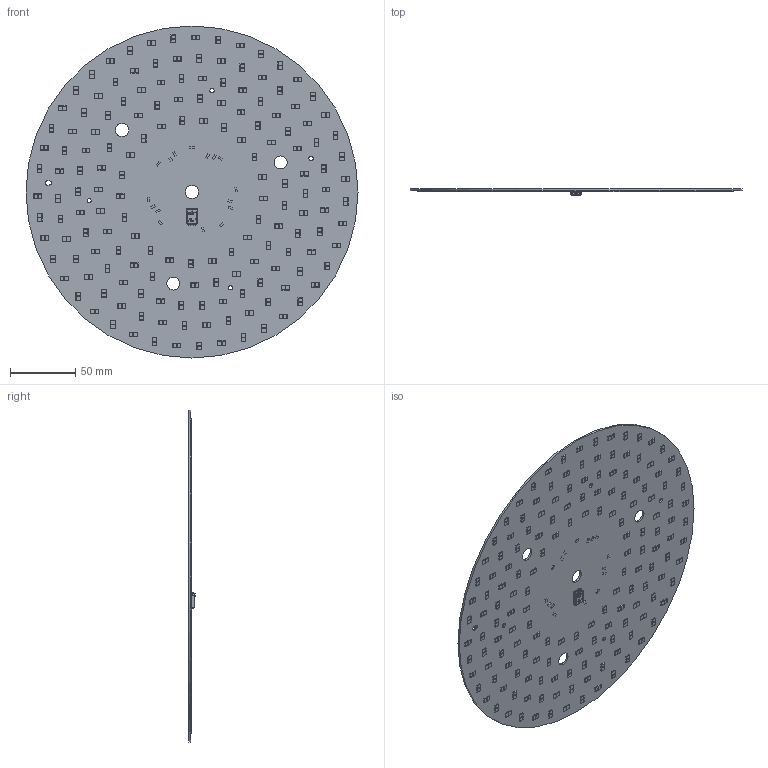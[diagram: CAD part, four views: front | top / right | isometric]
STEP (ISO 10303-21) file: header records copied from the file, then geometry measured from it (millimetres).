
FILE_DESCRIPTION(/* description */ ('Unknown'),/* implementation_level */ '2;1');
FILE_NAME(/* name */ 'RdLED 254mm 14000lm VICTORIA sh-000 2024-04-08',/* time_stamp */ '2024-04-08T11:44:54+02:00',/* author */ ('Unknown'),/* organization */ ('Unknown'),/* preprocessor_version */ 'ST-DEVELOPER v18.102',/* originating_system */ 'Solid Edge',/* authorisation */ 'Unknown');
FILE_SCHEMA (('AUTOMOTIVE_DESIGN {1 0 10303 214 3 1 1}'));
Products named in the file (1): RdLED 254mm 14000lm VICTORIA sh-000 2024-04-08
Bounding box: 254 x 4.95 x 254 mm (x, y, z)
Volume: 77656.2 mm3; surface area: 105296.1 mm2
Topology: 1 solids, 1 shells, 5714 faces, 14941 edges, 9884 vertices
Faces by surface type: plane 5459, cylinder 126, torus 52, cone 44, bspline 23, sphere 10
Full cylindrical faces by diameter (mm): 3.2 x3, 3.3 x1, 10 x4, 254 x1
Entity records: 212535 total; most frequent: CARTESIAN_POINT 32289, ORIENTED_EDGE 29826, DIRECTION 26166, EDGE_CURVE 14913, LINE 14360, VECTOR 14360, VERTEX_POINT 9879, EDGE_LOOP 6416
